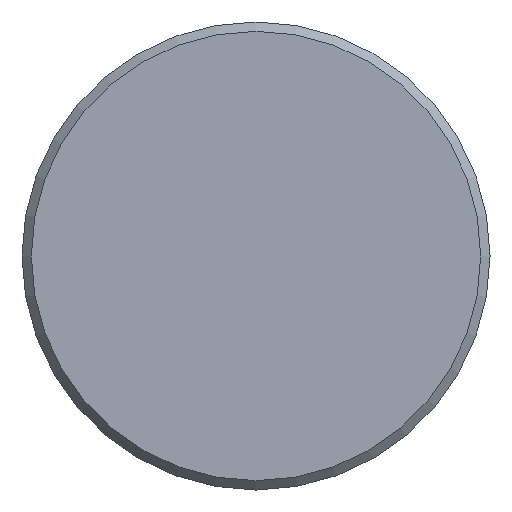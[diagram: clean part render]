
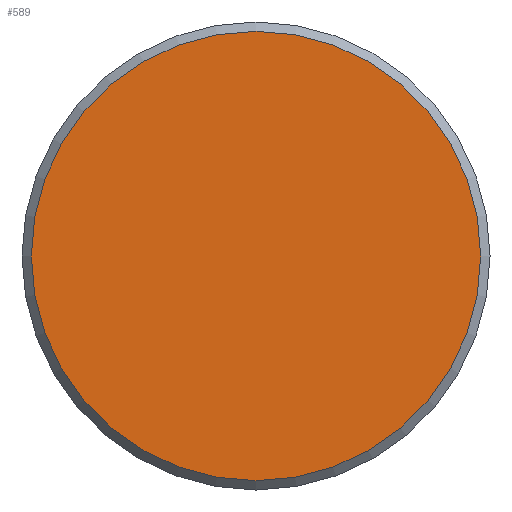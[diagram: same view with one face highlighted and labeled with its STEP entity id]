
A CAD part, front view. The second image highlights one B-rep face of the part: STEP entity #589.
In plain terms, the highlighted planar face has unit normal (0, -1, 0).
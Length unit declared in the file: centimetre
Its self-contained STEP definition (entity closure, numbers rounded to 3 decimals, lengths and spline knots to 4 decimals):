
#70=PLANE($,#655);
#163=FACE_OUTER_BOUND($,#217,.T.);
#217=EDGE_LOOP($,(#484));
#261=CIRCLE($,#654,0.96);
#302=VERTEX_POINT($,#978);
#367=EDGE_CURVE($,#302,#302,#261,.T.);
#484=ORIENTED_EDGE($,*,*,#367,.F.);
#589=ADVANCED_FACE($,(#163),#70,.T.);
#654=AXIS2_PLACEMENT_3D($,#979,#780,#781);
#655=AXIS2_PLACEMENT_3D($,#980,#782,#783);
#780=DIRECTION('center_axis',(0.,1.,0.));
#781=DIRECTION('ref_axis',(1.,0.,0.));
#782=DIRECTION('center_axis',(0.,-1.,0.));
#783=DIRECTION('ref_axis',(0.,0.,-1.));
#978=CARTESIAN_POINT('',(-0.96,0.,0.));
#979=CARTESIAN_POINT('Origin',(0.,0.,0.));
#980=CARTESIAN_POINT('Origin',(0.,0.,0.));
